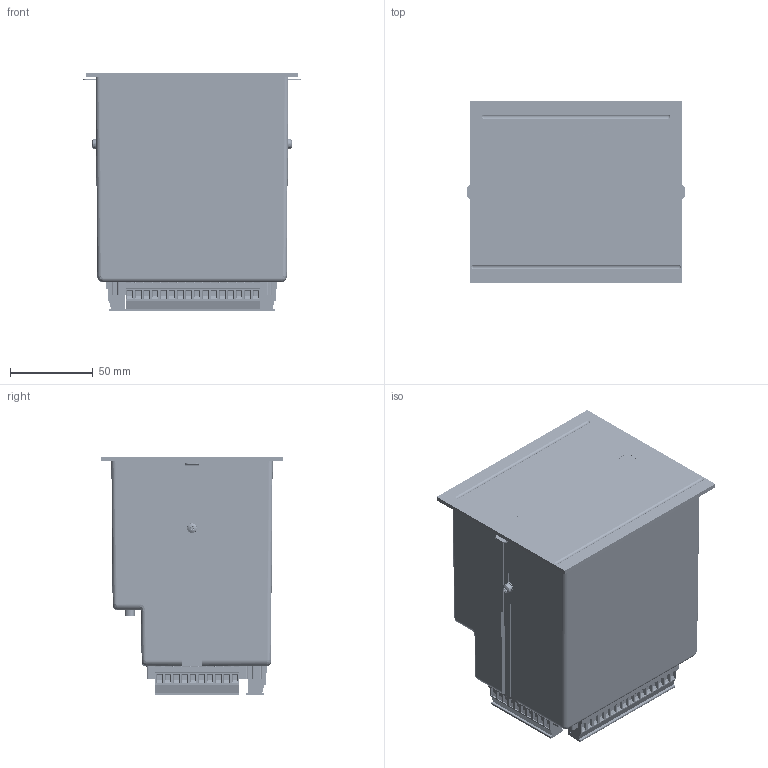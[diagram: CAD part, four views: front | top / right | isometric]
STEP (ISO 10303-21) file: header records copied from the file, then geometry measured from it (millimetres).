
FILE_DESCRIPTION(/* description */ ('STEP AP214'),/* implementation_level */ '2;1');
FILE_NAME(/* name */ 'D:\WorkIMT\Project IMT\Лайм+\v11 (РиМ)\Пустая\MT.LIMEp.stp',/* time_stamp */ '2021-04-22T12:34:27+03:00',/* author */ ('Иван'),/* organization */ (' '),/* preprocessor_version */ 'ST-DEVELOPER v17.2',/* originating_system */ 'Autodesk Inventor 2019',/* authorisation */ ' ');
FILE_SCHEMA (('AUTOMOTIVE_DESIGN { 1 0 10303 214 3 1 1 }'));
Products named in the file (30): MT.LIMEp_Опт.03.СБ; 2; 22; Submodel-AC1020_part_simplified_AC-1020; Submodel-D_area_106_MP_Tech_Novosib14_LimePmentorMT_LIMEp_KROSS_v3BLa
yout3DInput_SAC-1005.xtd; AC-1005; Submodel-2EDGVM-5.08-16P-14-00AH_part_2EDGVM-5.08-16P-14; Submodel-D_area_106_MP_Tech_Novosib14_LimePmentorMT_LIMEp_KROSS_v3BLa
yout3DImportedPartModelsMSTBV ; MSTBV 2,5 16-GF-5,08.xtd; Submodel-2EDGVM-5.08-09P-14-00AH_part_2EDGVM-5.08-09P-14; Submodel-D_area_106_MP_Tech_Novosib14_LimePmentorMT_LIMEp_KROSS_v3BLa
yout3DImportedPartModelsMSTBV _1; MSTBV 2,5 9 - GF-508 - 1777141.xtd; Submodel-2EDGVM-5.08-10P-14-00AH_part_2EDGVM-5.08-10P-14; Submodel-D_area_106_MP_Tech_Novosib14_LimePmentorMT_LIMEp_KROSS_v3BLa
yout3DImportedPartModelsMSTBV _2; MSTBV 2,5 10-GF-5,08 - 1777154.xtd; 1; 11; HFBR-4522Z; MT.LIMEp.Кожух_Опт.
02; MT.LIMEp.Крышка_Опт.
02; DIN 16903B-M3-BR; MT.LIMEp.ПЛ.02; МТ.LIMEp.Крепление.
02; 2EDGKAM-5.08-09P-14-00A(H); 2EDGKAM-5.08-10P-14-00A(H); 2EDGKAM-5.08-16P-14-00A(H); DIN 7985 (H) - M3x6-H; DIN 125-2 - A 3,2; DIN 127 - A 3; USB-B.xtd
Assembly tree (41 placements, depth 6):
  MT.LIMEp_Опт.03.СБ
    2
      22
        Submodel-AC1020_part_simplified_AC-1020  x3
          Submodel-D_area_106_MP_Tech_Novosib14_LimePmentorMT_LIMEp_KROSS_v3BLa
yout3DInput_SAC-1005.xtd
            AC-1005
        Submodel-2EDGVM-5.08-16P-14-00AH_part_2EDGVM-5.08-16P-14
          Submodel-D_area_106_MP_Tech_Novosib14_LimePmentorMT_LIMEp_KROSS_v3BLa
yout3DImportedPartModelsMSTBV 
            MSTBV 2,5 16-GF-5,08.xtd
        Submodel-2EDGVM-5.08-09P-14-00AH_part_2EDGVM-5.08-09P-14
          Submodel-D_area_106_MP_Tech_Novosib14_LimePmentorMT_LIMEp_KROSS_v3BLa
yout3DImportedPartModelsMSTBV _1
            MSTBV 2,5 9 - GF-508 - 1777141.xtd
        Submodel-2EDGVM-5.08-10P-14-00AH_part_2EDGVM-5.08-10P-14
          Submodel-D_area_106_MP_Tech_Novosib14_LimePmentorMT_LIMEp_KROSS_v3BLa
yout3DImportedPartModelsMSTBV _2
            MSTBV 2,5 10-GF-5,08 - 1777154.xtd
    1
      11
      HFBR-4522Z  x6
    MT.LIMEp.Кожух_Опт.
02
      MT.LIMEp.Крышка_Опт.
02
      DIN 16903B-M3-BR  x2
    MT.LIMEp.ПЛ.02
    МТ.LIMEp.Крепление.
02  x2
    2EDGKAM-5.08-09P-14-00A(H)
    2EDGKAM-5.08-10P-14-00A(H)
    2EDGKAM-5.08-16P-14-00A(H)
    DIN 7985 (H) - M3x6-H  x2
    DIN 125-2 - A 3,2  x2
    DIN 127 - A 3  x2
    USB-B.xtd
Bounding box: 131.48 x 109.5 x 144.4 mm (x, y, z)
Volume: 234651.9 mm3; surface area: 230530.3 mm2
Topology: 38 solids, 38 shells, 8011 faces, 19339 edges, 12036 vertices
Faces by surface type: plane 6198, cylinder 1221, bspline 200, sphere 176, cone 144, torus 72
Full cylindrical faces by diameter (mm): 0.4 x8, 0.434 x3, 0.457 x3, 0.813 x9, 1.4 x70, 1.75 x6, 1.8 x6, 2.459 x2, 2.5 x18, 2.75 x2, 2.8 x64, 3 x2, 3.2 x2, 3.5 x4, 3.783 x35, 3.8 x6, 3.9 x6, 3.967 x2, 4 x47, 4.1 x2, 5.8 x6, 6 x6, 6.2 x6, 7 x2, 8.521 x2, 9.5 x3, 10 x2, 12 x2
Entity records: 227112 total; most frequent: CARTESIAN_POINT 47705, DIRECTION 35812, ORIENTED_EDGE 35570, EDGE_CURVE 17785, LINE 12996, VECTOR 12996, AXIS2_PLACEMENT_3D 11408, VERTEX_POINT 11072
